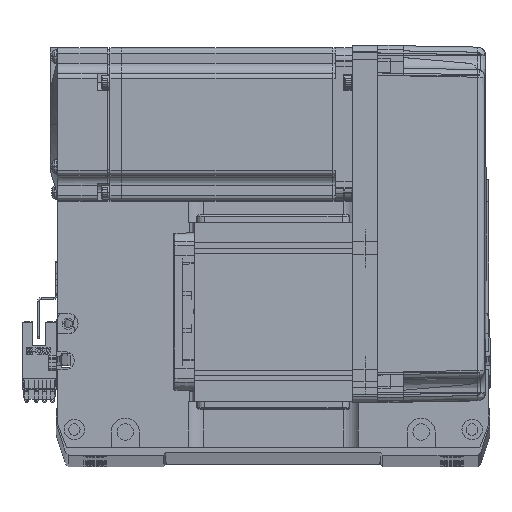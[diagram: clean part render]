
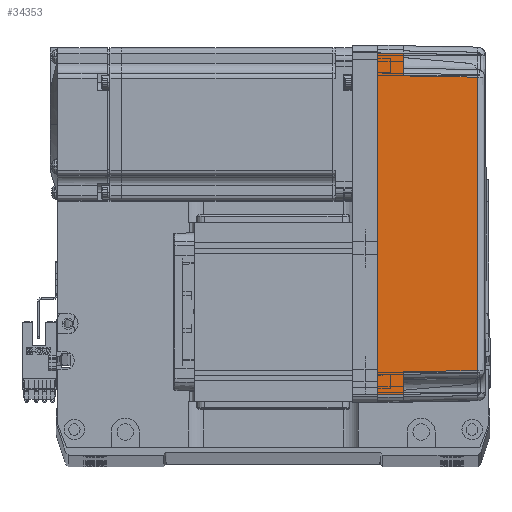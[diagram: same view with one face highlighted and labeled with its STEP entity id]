
A CAD part, top view. The second image highlights one B-rep face of the part: STEP entity #34353.
In plain terms, the highlighted planar face has unit normal (0.018, 0, 1) as drawn and (0, -1, 0.017) by its records, which use the part's own axes.
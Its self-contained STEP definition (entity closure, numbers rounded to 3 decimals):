
#1082 = FACE_OUTER_BOUND ( 'NONE', #40147, .T. ) ;
#1187 = CARTESIAN_POINT ( 'NONE',  ( 67., -36., 0. ) ) ;
#3824 = ORIENTED_EDGE ( 'NONE', *, *, #62664, .F. ) ;
#7949 = EDGE_CURVE ( 'NONE', #52897, #55002, #38251, .T. ) ;
#8988 = LINE ( 'NONE', #26505, #65890 ) ;
#9299 = DIRECTION ( 'NONE',  ( -1., 0., 0. ) ) ;
#9933 = CARTESIAN_POINT ( 'NONE',  ( 57.495, -35.32, 38.985 ) ) ;
#10959 = CARTESIAN_POINT ( 'NONE',  ( 70., -35.825, 10. ) ) ;
#12299 = DIRECTION ( 'NONE',  ( -1., 0., 0. ) ) ;
#12847 = VERTEX_POINT ( 'NONE', #18467 ) ;
#14238 = EDGE_CURVE ( 'NONE', #64644, #45079, #62647, .T. ) ;
#14414 = CARTESIAN_POINT ( 'NONE',  ( 0., -36., 0. ) ) ;
#14698 = DIRECTION ( 'NONE',  ( -0.017, -0.017, -1. ) ) ;
#16217 = CARTESIAN_POINT ( 'NONE',  ( 57.495, -35.32, 38.985 ) ) ;
#16944 = EDGE_CURVE ( 'NONE', #55002, #67463, #36869, .T. ) ;
#17603 = CARTESIAN_POINT ( 'NONE',  ( 66.826, -35.825, 10. ) ) ;
#18467 = CARTESIAN_POINT ( 'NONE',  ( -67., -36., 0. ) ) ;
#20182 = CARTESIAN_POINT ( 'NONE',  ( -19.165, -35.316, 39.181 ) ) ;
#20662 = ORIENTED_EDGE ( 'NONE', *, *, #7949, .T. ) ;
#21101 = CARTESIAN_POINT ( 'NONE',  ( -58., -35.825, 10. ) ) ;
#21369 = DIRECTION ( 'NONE',  ( -0.017, 0.017, 1. ) ) ;
#26505 = CARTESIAN_POINT ( 'NONE',  ( 58., -35.825, 10. ) ) ;
#27049 = DIRECTION ( 'NONE',  ( -1., 0., 0. ) ) ;
#27613 = LINE ( 'NONE', #36519, #56993 ) ;
#27672 = CARTESIAN_POINT ( 'NONE',  ( 70., -35.825, 10. ) ) ;
#30570 = EDGE_CURVE ( 'NONE', #40191, #53795, #36575, .T. ) ;
#32122 = VECTOR ( 'NONE', #9299, 1000. ) ;
#33049 = ORIENTED_EDGE ( 'NONE', *, *, #14238, .T. ) ;
#34353 = ADVANCED_FACE ( 'NONE', ( #1082 ), #41830, .T. ) ;
#36138 = CARTESIAN_POINT ( 'NONE',  ( 58., -35.825, 10. ) ) ;
#36519 = CARTESIAN_POINT ( 'NONE',  ( -57.495, -35.32, 38.985 ) ) ;
#36575 = LINE ( 'NONE', #10959, #67469 ) ;
#36855 = CARTESIAN_POINT ( 'NONE',  ( -57.495, -35.32, 38.985 ) ) ;
#36869 = LINE ( 'NONE', #27672, #44366 ) ;
#37089 = CARTESIAN_POINT ( 'NONE',  ( 19.165, -35.316, 39.181 ) ) ;
#37446 = VECTOR ( 'NONE', #54107, 1000. ) ;
#38101 = LINE ( 'NONE', #64733, #38870 ) ;
#38251 = LINE ( 'NONE', #1187, #37446 ) ;
#38870 = VECTOR ( 'NONE', #60054, 1000. ) ;
#40147 = EDGE_LOOP ( 'NONE', ( #20662, #68561, #56982, #33049, #68611, #46714, #64829, #3824 ) ) ;
#40188 = CARTESIAN_POINT ( 'NONE',  ( 67., -36., 0. ) ) ;
#40191 = VERTEX_POINT ( 'NONE', #21101 ) ;
#41830 = PLANE ( 'NONE',  #62014 ) ;
#43713 = EDGE_CURVE ( 'NONE', #12847, #53795, #38101, .T. ) ;
#44366 = VECTOR ( 'NONE', #12299, 1000. ) ;
#45079 = VERTEX_POINT ( 'NONE', #36855 ) ;
#46714 = ORIENTED_EDGE ( 'NONE', *, *, #30570, .T. ) ;
#47411 = DIRECTION ( 'NONE',  ( 0., -0.017, -1. ) ) ;
#52275 = CARTESIAN_POINT ( 'NONE',  ( -57.495, -35.32, 38.985 ) ) ;
#52897 = VERTEX_POINT ( 'NONE', #40188 ) ;
#53294 = CARTESIAN_POINT ( 'NONE',  ( 70., -36., 0. ) ) ;
#53795 = VERTEX_POINT ( 'NONE', #56891 ) ;
#54107 = DIRECTION ( 'NONE',  ( -0.017, 0.017, 1. ) ) ;
#55002 = VERTEX_POINT ( 'NONE', #17603 ) ;
#56334 = EDGE_CURVE ( 'NONE', #45079, #40191, #27613, .T. ) ;
#56891 = CARTESIAN_POINT ( 'NONE',  ( -66.826, -35.825, 10. ) ) ;
#56982 = ORIENTED_EDGE ( 'NONE', *, *, #66055, .T. ) ;
#56993 = VECTOR ( 'NONE', #14698, 1000. ) ;
#60054 = DIRECTION ( 'NONE',  ( 0.017, 0.017, 1. ) ) ;
#62014 = AXIS2_PLACEMENT_3D ( 'NONE', #53294, #63077, #47411 ) ;
#62647 = B_SPLINE_CURVE_WITH_KNOTS ( 'NONE', 3,
 ( #9933, #37089, #20182, #52275 ),
 .UNSPECIFIED., .F., .F.,
 ( 4, 4 ),
 ( 0., 1. ),
 .UNSPECIFIED. ) ;
#62664 = EDGE_CURVE ( 'NONE', #52897, #12847, #63961, .T. ) ;
#63077 = DIRECTION ( 'NONE',  ( 0., -1., 0.017 ) ) ;
#63961 = LINE ( 'NONE', #14414, #32122 ) ;
#64644 = VERTEX_POINT ( 'NONE', #16217 ) ;
#64733 = CARTESIAN_POINT ( 'NONE',  ( -66.959, -35.958, 2.39 ) ) ;
#64829 = ORIENTED_EDGE ( 'NONE', *, *, #43713, .F. ) ;
#65890 = VECTOR ( 'NONE', #21369, 1000. ) ;
#66055 = EDGE_CURVE ( 'NONE', #67463, #64644, #8988, .T. ) ;
#67463 = VERTEX_POINT ( 'NONE', #36138 ) ;
#67469 = VECTOR ( 'NONE', #27049, 1000. ) ;
#68561 = ORIENTED_EDGE ( 'NONE', *, *, #16944, .T. ) ;
#68611 = ORIENTED_EDGE ( 'NONE', *, *, #56334, .T. ) ;
